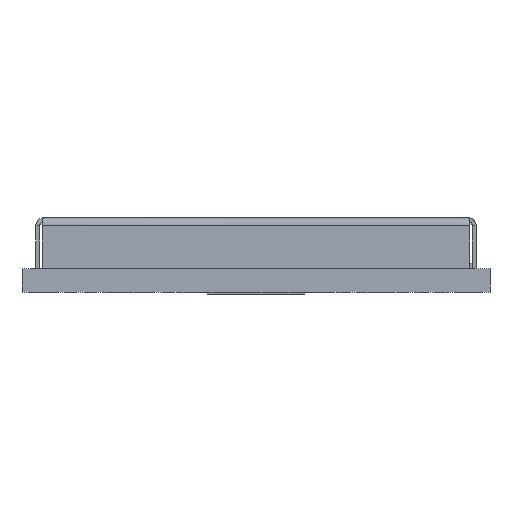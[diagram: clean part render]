
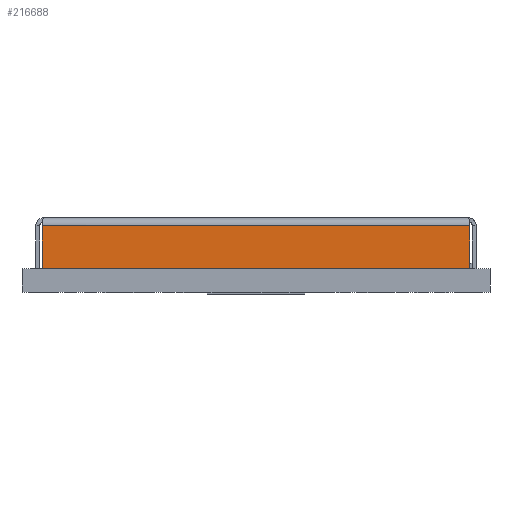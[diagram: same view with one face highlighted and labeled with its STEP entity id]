
A CAD part, front view. The second image highlights one B-rep face of the part: STEP entity #216688.
In plain terms, the highlighted planar face has unit normal (0, -1, 0).
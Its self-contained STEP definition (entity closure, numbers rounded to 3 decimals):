
#4976 = EDGE_CURVE ( 'NONE', #38270, #179756, #56486, .T. ) ;
#13686 = FACE_OUTER_BOUND ( 'NONE', #160680, .T. ) ;
#23983 = EDGE_CURVE ( 'NONE', #107614, #199277, #170186, .T. ) ;
#32178 = ORIENTED_EDGE ( 'NONE', *, *, #23983, .T. ) ;
#33704 = LINE ( 'NONE', #194105, #133199 ) ;
#38270 = VERTEX_POINT ( 'NONE', #133380 ) ;
#46899 = PLANE ( 'NONE',  #86456 ) ;
#47729 = EDGE_CURVE ( 'NONE', #199277, #38270, #33704, .T. ) ;
#49322 = EDGE_CURVE ( 'NONE', #179756, #107614, #73395, .T. ) ;
#56486 = LINE ( 'NONE', #157531, #144213 ) ;
#62847 = DIRECTION ( 'NONE',  ( -1., 0., 0. ) ) ;
#73395 = LINE ( 'NONE', #192894, #137771 ) ;
#80046 = DIRECTION ( 'NONE',  ( 0., 1., 0. ) ) ;
#86456 = AXIS2_PLACEMENT_3D ( 'NONE', #116906, #80046, #62847 ) ;
#89569 = DIRECTION ( 'NONE',  ( 0., 0., -1. ) ) ;
#93185 = CARTESIAN_POINT ( 'NONE',  ( 0.524, 0.353, 0. ) ) ;
#106907 = DIRECTION ( 'NONE',  ( 0., 0., 1. ) ) ;
#107614 = VERTEX_POINT ( 'NONE', #93185 ) ;
#110696 = CARTESIAN_POINT ( 'NONE',  ( 0.524, 0.353, 1.1 ) ) ;
#116906 = CARTESIAN_POINT ( 'NONE',  ( 0.353, 0.353, 1.3 ) ) ;
#117504 = DIRECTION ( 'NONE',  ( 1., 0., 0. ) ) ;
#121140 = ORIENTED_EDGE ( 'NONE', *, *, #49322, .T. ) ;
#127624 = DIRECTION ( 'NONE',  ( -1., 0., 0. ) ) ;
#133199 = VECTOR ( 'NONE', #106907, 1000. ) ;
#133380 = CARTESIAN_POINT ( 'NONE',  ( 11.476, 0.353, 1.1 ) ) ;
#135284 = ORIENTED_EDGE ( 'NONE', *, *, #47729, .T. ) ;
#137771 = VECTOR ( 'NONE', #89569, 1000. ) ;
#144213 = VECTOR ( 'NONE', #127624, 1000. ) ;
#145937 = ORIENTED_EDGE ( 'NONE', *, *, #4976, .T. ) ;
#157531 = CARTESIAN_POINT ( 'NONE',  ( 0.524, 0.353, 1.1 ) ) ;
#160680 = EDGE_LOOP ( 'NONE', ( #135284, #145937, #121140, #32178 ) ) ;
#166818 = CARTESIAN_POINT ( 'NONE',  ( 0.353, 0.353, 0. ) ) ;
#170186 = LINE ( 'NONE', #166818, #182633 ) ;
#179756 = VERTEX_POINT ( 'NONE', #110696 ) ;
#182633 = VECTOR ( 'NONE', #117504, 1000. ) ;
#185663 = CARTESIAN_POINT ( 'NONE',  ( 11.476, 0.353, 0. ) ) ;
#192894 = CARTESIAN_POINT ( 'NONE',  ( 0.524, 0.353, 1.3 ) ) ;
#194105 = CARTESIAN_POINT ( 'NONE',  ( 11.476, 0.353, 1.3 ) ) ;
#199277 = VERTEX_POINT ( 'NONE', #185663 ) ;
#216688 = ADVANCED_FACE ( 'NONE', ( #13686 ), #46899, .F. ) ;
